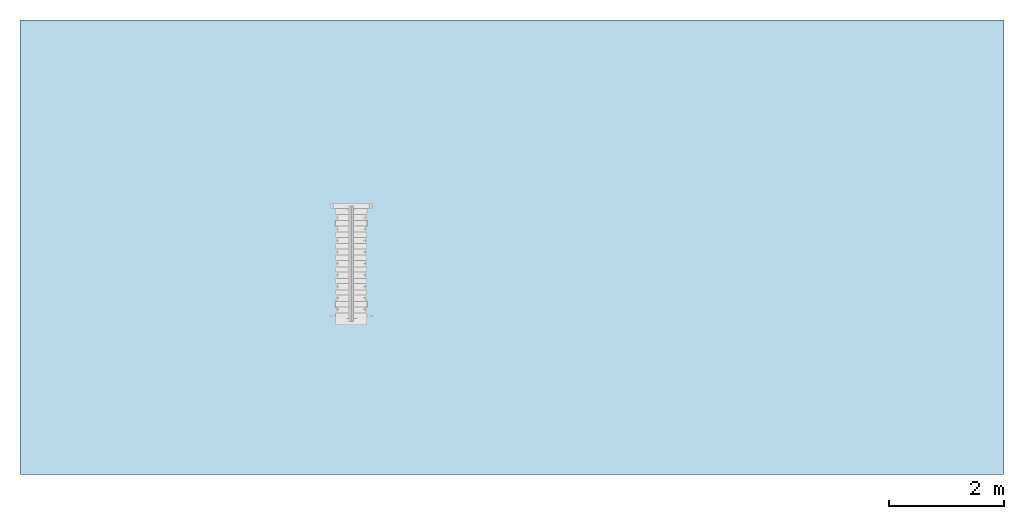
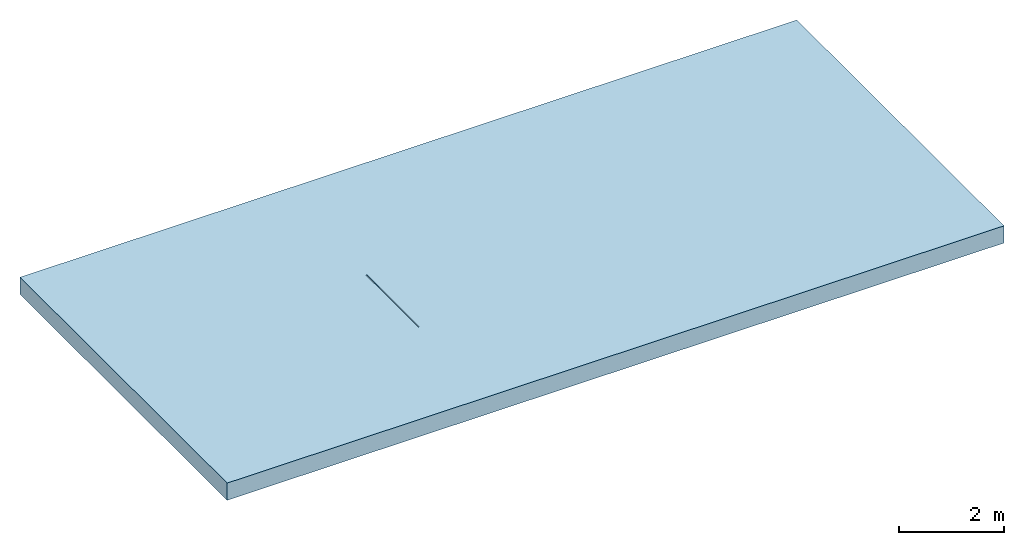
# One storey, incomplete: 1 slab, 1 opening.
"""IFC2X3 building model written with IfcOpenShell, lengths in millimetres."""

from ifc_helpers import new_model, entity, si_unit, converted_unit, direction, frame, frame_2d, origin, place, context, subcontext, project, spatial, polyline, rectangle, outline, extrude, material, layer, layer_set, layer_usage, element, save


model = new_model("IFC2X3")

# Units and contexts
model_context = context("Model", 3, precision=1e-06, world=origin(), true_north=direction((2.0, 6.12303176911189e-17, 1.0)))
context_of_model = context(None, 3, precision=1e-06, world=origin(), true_north=direction((2.0, 6.12303176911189e-17, 1.0)))
body_context = subcontext(model_context, "Body", "Model", "MODEL_VIEW")
ifc_project = project(units=[si_unit("LENGTHUNIT", "METRE", prefix="MILLI"), si_unit("AREAUNIT", "SQUARE_METRE", prefix="MILLI"), si_unit("VOLUMEUNIT", "CUBIC_METRE", prefix="MILLI"), converted_unit("PLANEANGLEUNIT", "DEGREE", entity("IfcRatioMeasure", 0.0174532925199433), si_unit("PLANEANGLEUNIT", "RADIAN"), dimensions=[0, 0, 0, 0, 0, 0, 0]), si_unit("TIMEUNIT", "SECOND")], contexts=[model_context, context_of_model])

# Site, building, storey
site_placement = place(None, origin())
site = spatial("IfcSite", under=ifc_project, at=site_placement, Name="Default", CompositionType="ELEMENT")
building_placement = place(site_placement, origin())
building = spatial("IfcBuilding", under=site, at=building_placement, CompositionType="ELEMENT")
storey_placement = place(building_placement, origin())
storey = spatial("IfcBuildingStorey", under=building, at=storey_placement, Name="Level 1", CompositionType="ELEMENT", Elevation=0.0)

# Slab, opening
ifc_material = material(Name="Plant")
ifc_layer = layer(ifc_material, 400.0)
ifc_layer_set = layer_set([ifc_layer], Name="Floor:Generic Floor - 400mm")
ifc_layer_usage = layer_usage(ifc_layer_set, "AXIS3", "POSITIVE", 0.0)
slab_placement = place(storey_placement, origin())
slab = element("IfcSlab", 1, at=slab_placement, inside=storey, material=ifc_layer_usage, Name="Floor:Generic Floor - 400mm", ObjectType="Floor:Generic Floor - 400mm", PredefinedType="FLOOR", context=body_context, shape_type="SweptSolid", body=[
    extrude(rectangle(XDim=7900.0, YDim=17100.0, at=frame_2d((0.0, 0.0), x_axis=(0.0, -1.0))), frame((-8097.86261836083, 1059.07636553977, 0.0), z_axis=(0.0, 0.0, -1.0), x_axis=(-1.0, 0.0, 0.0)), (0.0, 0.0, 1.0), 400.0),
])
opening_placement = place(slab_placement, origin())
element("IfcOpeningElement", 2, at=opening_placement, cuts=slab, ObjectType="Opening", context=body_context, shape_type="SweptSolid", body=[
    extrude(outline(polyline([(-317.500000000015, 9.0), (-317.500000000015, -9.0), (-267.499999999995, -9.0), (-267.499999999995, -369.0), (852.500000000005, -369.0), (852.500000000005, 369.0), (-267.499999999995, 369.0), (-267.499999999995, 9.0), (-317.500000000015, 9.0)])), frame((-10890.0939391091, -226.594513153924, -317.499999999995), z_axis=(0.0, -1.0, 0.0), x_axis=(0.0, 0.0, -1.0)), (0.0, 0.0, -1.0), 2000.0),
])

save(model, "model.ifc")
